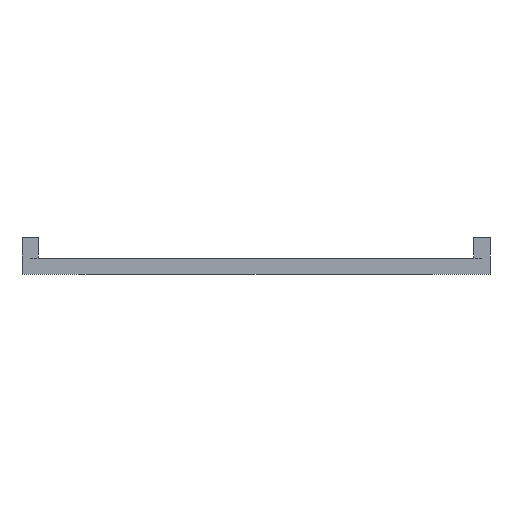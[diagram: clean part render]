
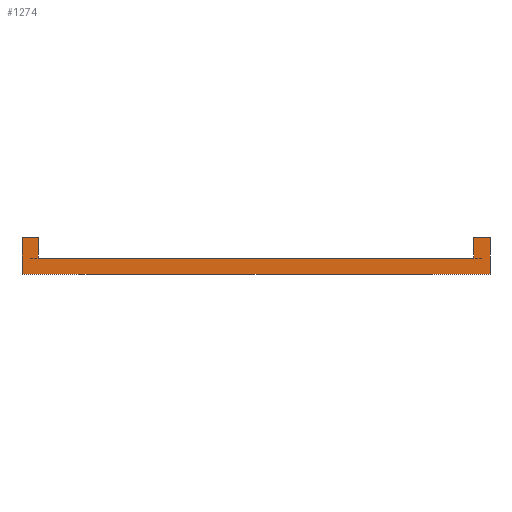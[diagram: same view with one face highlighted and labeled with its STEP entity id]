
A CAD part, front view. The second image highlights one B-rep face of the part: STEP entity #1274.
In plain terms, the highlighted planar face has unit normal (0, -1, 0).
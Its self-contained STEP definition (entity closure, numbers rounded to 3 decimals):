
#44 = PLANE('',#45);
#45 = AXIS2_PLACEMENT_3D('',#46,#47,#48);
#46 = CARTESIAN_POINT('',(0.,0.,-4.5));
#47 = DIRECTION('',(-0.,-0.,-1.));
#48 = DIRECTION('',(-1.,0.,0.));
#72 = PLANE('',#73);
#73 = AXIS2_PLACEMENT_3D('',#74,#75,#76);
#74 = CARTESIAN_POINT('',(-28.55,-40.05,-4.5));
#75 = DIRECTION('',(-1.,0.,0.));
#76 = DIRECTION('',(0.,1.,0.));
#156 = PLANE('',#157);
#157 = AXIS2_PLACEMENT_3D('',#158,#159,#160);
#158 = CARTESIAN_POINT('',(0.,0.,-2.5)
  );
#159 = DIRECTION('',(0.,0.,1.));
#160 = DIRECTION('',(1.,0.,-0.));
#238 = PLANE('',#239);
#239 = AXIS2_PLACEMENT_3D('',#240,#241,#242);
#240 = CARTESIAN_POINT('',(28.55,40.05,-4.5));
#241 = DIRECTION('',(1.,0.,-0.));
#242 = DIRECTION('',(0.,-1.,0.));
#255 = VERTEX_POINT('',#256);
#256 = CARTESIAN_POINT('',(28.55,-40.05,-4.5));
#277 = EDGE_CURVE('',#255,#278,#280,.T.);
#278 = VERTEX_POINT('',#279);
#279 = CARTESIAN_POINT('',(-28.55,-40.05,-4.5));
#280 = SURFACE_CURVE('',#281,(#285,#292),.PCURVE_S1.);
#281 = LINE('',#282,#283);
#282 = CARTESIAN_POINT('',(28.55,-40.05,-4.5));
#283 = VECTOR('',#284,1.);
#284 = DIRECTION('',(-1.,0.,0.));
#285 = PCURVE('',#44,#286);
#286 = DEFINITIONAL_REPRESENTATION('',(#287),#291);
#287 = LINE('',#288,#289);
#288 = CARTESIAN_POINT('',(-28.55,-40.05));
#289 = VECTOR('',#290,1.);
#290 = DIRECTION('',(1.,0.));
#291 = ( GEOMETRIC_REPRESENTATION_CONTEXT(2) 
PARAMETRIC_REPRESENTATION_CONTEXT() REPRESENTATION_CONTEXT('2D SPACE',''
  ) );
#292 = PCURVE('',#293,#298);
#293 = PLANE('',#294);
#294 = AXIS2_PLACEMENT_3D('',#295,#296,#297);
#295 = CARTESIAN_POINT('',(28.55,-40.05,-4.5));
#296 = DIRECTION('',(0.,-1.,0.));
#297 = DIRECTION('',(-1.,0.,0.));
#298 = DEFINITIONAL_REPRESENTATION('',(#299),#303);
#299 = LINE('',#300,#301);
#300 = CARTESIAN_POINT('',(0.,-0.));
#301 = VECTOR('',#302,1.);
#302 = DIRECTION('',(1.,0.));
#303 = ( GEOMETRIC_REPRESENTATION_CONTEXT(2) 
PARAMETRIC_REPRESENTATION_CONTEXT() REPRESENTATION_CONTEXT('2D SPACE',''
  ) );
#662 = CYLINDRICAL_SURFACE('',#663,2.);
#663 = AXIS2_PLACEMENT_3D('',#664,#665,#666);
#664 = CARTESIAN_POINT('',(26.55,-38.05,-2.5));
#665 = DIRECTION('',(-0.,0.,-1.));
#666 = DIRECTION('',(1.,0.,0.));
#675 = VERTEX_POINT('',#676);
#676 = CARTESIAN_POINT('',(28.55,-40.05,0.));
#690 = PLANE('',#691);
#691 = AXIS2_PLACEMENT_3D('',#692,#693,#694);
#692 = CARTESIAN_POINT('',(0.,0.,0.));
#693 = DIRECTION('',(-0.,-0.,-1.));
#694 = DIRECTION('',(-1.,0.,0.));
#702 = EDGE_CURVE('',#255,#675,#703,.T.);
#703 = SURFACE_CURVE('',#704,(#708,#715),.PCURVE_S1.);
#704 = LINE('',#705,#706);
#705 = CARTESIAN_POINT('',(28.55,-40.05,-4.5));
#706 = VECTOR('',#707,1.);
#707 = DIRECTION('',(0.,0.,1.));
#708 = PCURVE('',#238,#709);
#709 = DEFINITIONAL_REPRESENTATION('',(#710),#714);
#710 = LINE('',#711,#712);
#711 = CARTESIAN_POINT('',(80.1,0.));
#712 = VECTOR('',#713,1.);
#713 = DIRECTION('',(0.,-1.));
#714 = ( GEOMETRIC_REPRESENTATION_CONTEXT(2) 
PARAMETRIC_REPRESENTATION_CONTEXT() REPRESENTATION_CONTEXT('2D SPACE',''
  ) );
#715 = PCURVE('',#293,#716);
#716 = DEFINITIONAL_REPRESENTATION('',(#717),#721);
#717 = LINE('',#718,#719);
#718 = CARTESIAN_POINT('',(0.,-0.));
#719 = VECTOR('',#720,1.);
#720 = DIRECTION('',(0.,-1.));
#721 = ( GEOMETRIC_REPRESENTATION_CONTEXT(2) 
PARAMETRIC_REPRESENTATION_CONTEXT() REPRESENTATION_CONTEXT('2D SPACE',''
  ) );
#785 = EDGE_CURVE('',#786,#788,#790,.T.);
#786 = VERTEX_POINT('',#787);
#787 = CARTESIAN_POINT('',(-26.55,-40.05,-2.5));
#788 = VERTEX_POINT('',#789);
#789 = CARTESIAN_POINT('',(26.55,-40.05,-2.5));
#790 = SURFACE_CURVE('',#791,(#795,#802),.PCURVE_S1.);
#791 = LINE('',#792,#793);
#792 = CARTESIAN_POINT('',(-26.55,-40.05,-2.5));
#793 = VECTOR('',#794,1.);
#794 = DIRECTION('',(1.,0.,0.));
#795 = PCURVE('',#156,#796);
#796 = DEFINITIONAL_REPRESENTATION('',(#797),#801);
#797 = LINE('',#798,#799);
#798 = CARTESIAN_POINT('',(-26.55,-40.05));
#799 = VECTOR('',#800,1.);
#800 = DIRECTION('',(1.,0.));
#801 = ( GEOMETRIC_REPRESENTATION_CONTEXT(2) 
PARAMETRIC_REPRESENTATION_CONTEXT() REPRESENTATION_CONTEXT('2D SPACE',''
  ) );
#802 = PCURVE('',#293,#803);
#803 = DEFINITIONAL_REPRESENTATION('',(#804),#808);
#804 = LINE('',#805,#806);
#805 = CARTESIAN_POINT('',(55.1,-2.));
#806 = VECTOR('',#807,1.);
#807 = DIRECTION('',(-1.,-0.));
#808 = ( GEOMETRIC_REPRESENTATION_CONTEXT(2) 
PARAMETRIC_REPRESENTATION_CONTEXT() REPRESENTATION_CONTEXT('2D SPACE',''
  ) );
#897 = CYLINDRICAL_SURFACE('',#898,2.);
#898 = AXIS2_PLACEMENT_3D('',#899,#900,#901);
#899 = CARTESIAN_POINT('',(-26.55,-38.05,-2.5));
#900 = DIRECTION('',(-0.,0.,-1.));
#901 = DIRECTION('',(1.,0.,0.));
#1199 = EDGE_CURVE('',#278,#1200,#1202,.T.);
#1200 = VERTEX_POINT('',#1201);
#1201 = CARTESIAN_POINT('',(-28.55,-40.05,0.));
#1202 = SURFACE_CURVE('',#1203,(#1207,#1214),.PCURVE_S1.);
#1203 = LINE('',#1204,#1205);
#1204 = CARTESIAN_POINT('',(-28.55,-40.05,-4.5));
#1205 = VECTOR('',#1206,1.);
#1206 = DIRECTION('',(0.,0.,1.));
#1207 = PCURVE('',#72,#1208);
#1208 = DEFINITIONAL_REPRESENTATION('',(#1209),#1213);
#1209 = LINE('',#1210,#1211);
#1210 = CARTESIAN_POINT('',(0.,0.));
#1211 = VECTOR('',#1212,1.);
#1212 = DIRECTION('',(0.,-1.));
#1213 = ( GEOMETRIC_REPRESENTATION_CONTEXT(2) 
PARAMETRIC_REPRESENTATION_CONTEXT() REPRESENTATION_CONTEXT('2D SPACE',''
  ) );
#1214 = PCURVE('',#293,#1215);
#1215 = DEFINITIONAL_REPRESENTATION('',(#1216),#1220);
#1216 = LINE('',#1217,#1218);
#1217 = CARTESIAN_POINT('',(57.1,0.));
#1218 = VECTOR('',#1219,1.);
#1219 = DIRECTION('',(0.,-1.));
#1220 = ( GEOMETRIC_REPRESENTATION_CONTEXT(2) 
PARAMETRIC_REPRESENTATION_CONTEXT() REPRESENTATION_CONTEXT('2D SPACE',''
  ) );
#1238 = PLANE('',#1239);
#1239 = AXIS2_PLACEMENT_3D('',#1240,#1241,#1242);
#1240 = CARTESIAN_POINT('',(0.,0.,0.));
#1241 = DIRECTION('',(-0.,-0.,-1.));
#1242 = DIRECTION('',(-1.,0.,0.));
#1274 = ADVANCED_FACE('',(#1275),#293,.T.);
#1275 = FACE_BOUND('',#1276,.T.);
#1276 = EDGE_LOOP('',(#1277,#1278,#1279,#1302,#1323,#1324,#1347,#1368));
#1277 = ORIENTED_EDGE('',*,*,#277,.F.);
#1278 = ORIENTED_EDGE('',*,*,#702,.T.);
#1279 = ORIENTED_EDGE('',*,*,#1280,.T.);
#1280 = EDGE_CURVE('',#675,#1281,#1283,.T.);
#1281 = VERTEX_POINT('',#1282);
#1282 = CARTESIAN_POINT('',(26.55,-40.05,0.));
#1283 = SURFACE_CURVE('',#1284,(#1288,#1295),.PCURVE_S1.);
#1284 = LINE('',#1285,#1286);
#1285 = CARTESIAN_POINT('',(28.55,-40.05,0.));
#1286 = VECTOR('',#1287,1.);
#1287 = DIRECTION('',(-1.,0.,0.));
#1288 = PCURVE('',#293,#1289);
#1289 = DEFINITIONAL_REPRESENTATION('',(#1290),#1294);
#1290 = LINE('',#1291,#1292);
#1291 = CARTESIAN_POINT('',(0.,-4.5));
#1292 = VECTOR('',#1293,1.);
#1293 = DIRECTION('',(1.,0.));
#1294 = ( GEOMETRIC_REPRESENTATION_CONTEXT(2) 
PARAMETRIC_REPRESENTATION_CONTEXT() REPRESENTATION_CONTEXT('2D SPACE',''
  ) );
#1295 = PCURVE('',#690,#1296);
#1296 = DEFINITIONAL_REPRESENTATION('',(#1297),#1301);
#1297 = LINE('',#1298,#1299);
#1298 = CARTESIAN_POINT('',(-28.55,-40.05));
#1299 = VECTOR('',#1300,1.);
#1300 = DIRECTION('',(1.,0.));
#1301 = ( GEOMETRIC_REPRESENTATION_CONTEXT(2) 
PARAMETRIC_REPRESENTATION_CONTEXT() REPRESENTATION_CONTEXT('2D SPACE',''
  ) );
#1302 = ORIENTED_EDGE('',*,*,#1303,.F.);
#1303 = EDGE_CURVE('',#788,#1281,#1304,.T.);
#1304 = SURFACE_CURVE('',#1305,(#1309,#1316),.PCURVE_S1.);
#1305 = LINE('',#1306,#1307);
#1306 = CARTESIAN_POINT('',(26.55,-40.05,-2.5));
#1307 = VECTOR('',#1308,1.);
#1308 = DIRECTION('',(0.,0.,1.));
#1309 = PCURVE('',#293,#1310);
#1310 = DEFINITIONAL_REPRESENTATION('',(#1311),#1315);
#1311 = LINE('',#1312,#1313);
#1312 = CARTESIAN_POINT('',(2.,-2.));
#1313 = VECTOR('',#1314,1.);
#1314 = DIRECTION('',(0.,-1.));
#1315 = ( GEOMETRIC_REPRESENTATION_CONTEXT(2) 
PARAMETRIC_REPRESENTATION_CONTEXT() REPRESENTATION_CONTEXT('2D SPACE',''
  ) );
#1316 = PCURVE('',#662,#1317);
#1317 = DEFINITIONAL_REPRESENTATION('',(#1318),#1322);
#1318 = LINE('',#1319,#1320);
#1319 = CARTESIAN_POINT('',(1.571,0.));
#1320 = VECTOR('',#1321,1.);
#1321 = DIRECTION('',(-0.,-1.));
#1322 = ( GEOMETRIC_REPRESENTATION_CONTEXT(2) 
PARAMETRIC_REPRESENTATION_CONTEXT() REPRESENTATION_CONTEXT('2D SPACE',''
  ) );
#1323 = ORIENTED_EDGE('',*,*,#785,.F.);
#1324 = ORIENTED_EDGE('',*,*,#1325,.T.);
#1325 = EDGE_CURVE('',#786,#1326,#1328,.T.);
#1326 = VERTEX_POINT('',#1327);
#1327 = CARTESIAN_POINT('',(-26.55,-40.05,0.));
#1328 = SURFACE_CURVE('',#1329,(#1333,#1340),.PCURVE_S1.);
#1329 = LINE('',#1330,#1331);
#1330 = CARTESIAN_POINT('',(-26.55,-40.05,-2.5));
#1331 = VECTOR('',#1332,1.);
#1332 = DIRECTION('',(0.,0.,1.));
#1333 = PCURVE('',#293,#1334);
#1334 = DEFINITIONAL_REPRESENTATION('',(#1335),#1339);
#1335 = LINE('',#1336,#1337);
#1336 = CARTESIAN_POINT('',(55.1,-2.));
#1337 = VECTOR('',#1338,1.);
#1338 = DIRECTION('',(0.,-1.));
#1339 = ( GEOMETRIC_REPRESENTATION_CONTEXT(2) 
PARAMETRIC_REPRESENTATION_CONTEXT() REPRESENTATION_CONTEXT('2D SPACE',''
  ) );
#1340 = PCURVE('',#897,#1341);
#1341 = DEFINITIONAL_REPRESENTATION('',(#1342),#1346);
#1342 = LINE('',#1343,#1344);
#1343 = CARTESIAN_POINT('',(1.571,0.));
#1344 = VECTOR('',#1345,1.);
#1345 = DIRECTION('',(-0.,-1.));
#1346 = ( GEOMETRIC_REPRESENTATION_CONTEXT(2) 
PARAMETRIC_REPRESENTATION_CONTEXT() REPRESENTATION_CONTEXT('2D SPACE',''
  ) );
#1347 = ORIENTED_EDGE('',*,*,#1348,.T.);
#1348 = EDGE_CURVE('',#1326,#1200,#1349,.T.);
#1349 = SURFACE_CURVE('',#1350,(#1354,#1361),.PCURVE_S1.);
#1350 = LINE('',#1351,#1352);
#1351 = CARTESIAN_POINT('',(28.55,-40.05,0.));
#1352 = VECTOR('',#1353,1.);
#1353 = DIRECTION('',(-1.,0.,0.));
#1354 = PCURVE('',#293,#1355);
#1355 = DEFINITIONAL_REPRESENTATION('',(#1356),#1360);
#1356 = LINE('',#1357,#1358);
#1357 = CARTESIAN_POINT('',(0.,-4.5));
#1358 = VECTOR('',#1359,1.);
#1359 = DIRECTION('',(1.,0.));
#1360 = ( GEOMETRIC_REPRESENTATION_CONTEXT(2) 
PARAMETRIC_REPRESENTATION_CONTEXT() REPRESENTATION_CONTEXT('2D SPACE',''
  ) );
#1361 = PCURVE('',#1238,#1362);
#1362 = DEFINITIONAL_REPRESENTATION('',(#1363),#1367);
#1363 = LINE('',#1364,#1365);
#1364 = CARTESIAN_POINT('',(-28.55,-40.05));
#1365 = VECTOR('',#1366,1.);
#1366 = DIRECTION('',(1.,0.));
#1367 = ( GEOMETRIC_REPRESENTATION_CONTEXT(2) 
PARAMETRIC_REPRESENTATION_CONTEXT() REPRESENTATION_CONTEXT('2D SPACE',''
  ) );
#1368 = ORIENTED_EDGE('',*,*,#1199,.F.);
